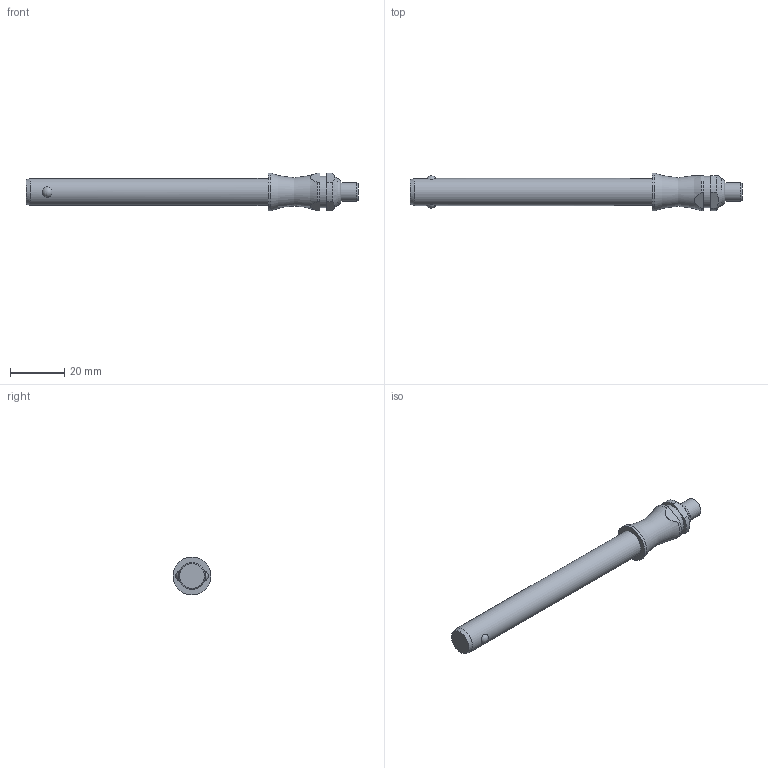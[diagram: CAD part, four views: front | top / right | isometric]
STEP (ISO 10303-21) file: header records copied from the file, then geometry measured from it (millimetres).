
FILE_DESCRIPTION( ( 'STEP AP203' ), '1' );
FILE_NAME( 'C:/Temp/Ganter_Step_05_03_2020/data/3_1/gn113_3/Stainless Steel-Ball lock pin GN 113.3-10-80 (deactivated).stp', '2020-03-12T08:18:36', ( 'License CC BY-ND 4.0' ), ( 'CADENAS' ), ' ', 'PARTsolutions', ' ' );
FILE_SCHEMA( ( 'CONFIG_CONTROL_DESIGN' ) );
Length unit declared in the file: millimetre
Products named in the file (1): _Stainless Steel-Ball lock pin GN 113.3-10-80 (deactivated)
Bounding box: 122.9 x 14 x 14 mm (x, y, z)
Volume: 10262.6 mm3; surface area: 4273.9 mm2
Topology: 1 solids, 1 shells, 28 faces, 60 edges, 39 vertices
Faces by surface type: plane 11, cylinder 10, cone 3, torus 2, sphere 2
Full cylindrical faces by diameter (mm): 7 x1, 10 x1, 11.6 x1, 14 x1
Entity records: 940 total; most frequent: CARTESIAN_POINT 327, DIRECTION 122, ORIENTED_EDGE 98, AXIS2_PLACEMENT_3D 52, EDGE_CURVE 49, EDGE_LOOP 42, VERTEX_POINT 37, FACE_OUTER_BOUND 34
